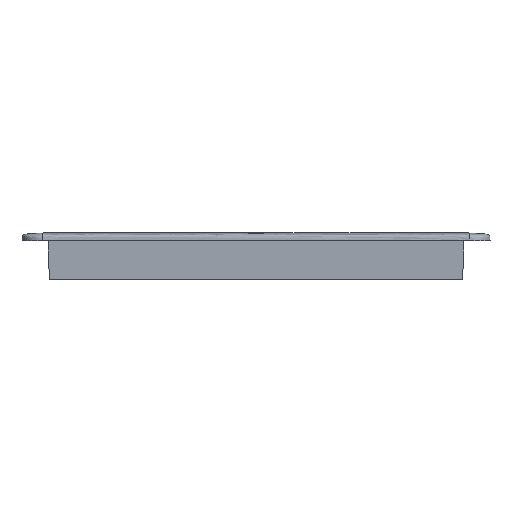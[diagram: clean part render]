
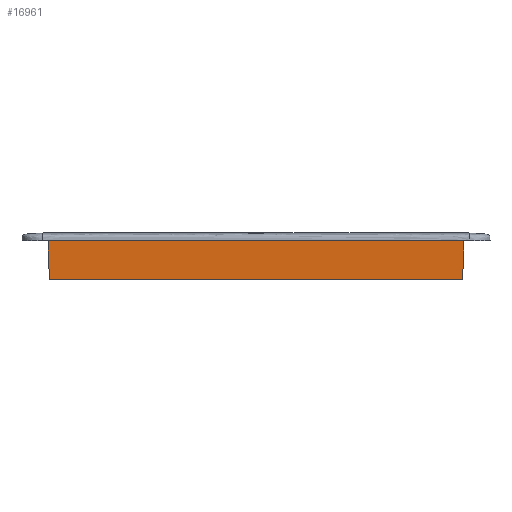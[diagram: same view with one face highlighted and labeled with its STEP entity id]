
A CAD part, front view. The second image highlights one B-rep face of the part: STEP entity #16961.
In plain terms, the highlighted planar face has unit normal (0, -0.999, -0.035).
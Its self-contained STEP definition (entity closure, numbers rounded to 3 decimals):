
#1172 = DIRECTION ( 'NONE',  ( 0., 0.035, -0.999 ) ) ;
#2906 = CARTESIAN_POINT ( 'NONE',  ( -144.421, -144.421, -0.001 ) ) ;
#3498 = EDGE_CURVE ( 'NONE', #21122, #11596, #11582, .T. ) ;
#4594 = LINE ( 'NONE', #24442, #30627 ) ;
#5108 = PLANE ( 'NONE',  #15021 ) ;
#5199 = VECTOR ( 'NONE', #29678, 1000. ) ;
#5937 = LINE ( 'NONE', #15845, #29996 ) ;
#5986 = ORIENTED_EDGE ( 'NONE', *, *, #27983, .F. ) ;
#6216 = DIRECTION ( 'NONE',  ( 0., -0.999, -0.035 ) ) ;
#7348 = DIRECTION ( 'NONE',  ( -1., 0., 0. ) ) ;
#7423 = ORIENTED_EDGE ( 'NONE', *, *, #3498, .F. ) ;
#7469 = EDGE_LOOP ( 'NONE', ( #7423, #26706, #18082, #5986 ) ) ;
#11582 = LINE ( 'NONE', #16627, #5199 ) ;
#11596 = VERTEX_POINT ( 'NONE', #23858 ) ;
#12016 = EDGE_CURVE ( 'NONE', #20030, #24028, #5937, .T. ) ;
#14535 = VECTOR ( 'NONE', #22643, 1000. ) ;
#15021 = AXIS2_PLACEMENT_3D ( 'NONE', #23624, #6216, #1172 ) ;
#15147 = CARTESIAN_POINT ( 'NONE',  ( -143.486, -144.421, -0.001 ) ) ;
#15175 = FACE_OUTER_BOUND ( 'NONE', #7469, .T. ) ;
#15845 = CARTESIAN_POINT ( 'NONE',  ( -143.486, -143.486, -26.777 ) ) ;
#16627 = CARTESIAN_POINT ( 'NONE',  ( 143.486, -143.486, -26.777 ) ) ;
#16961 = ADVANCED_FACE ( 'NONE', ( #15175 ), #5108, .T. ) ;
#18000 = EDGE_CURVE ( 'NONE', #21122, #20030, #25558, .T. ) ;
#18082 = ORIENTED_EDGE ( 'NONE', *, *, #12016, .T. ) ;
#18406 = CARTESIAN_POINT ( 'NONE',  ( 144.421, -144.421, -0.001 ) ) ;
#19078 = DIRECTION ( 'NONE',  ( 0.035, 0.035, -0.999 ) ) ;
#20030 = VERTEX_POINT ( 'NONE', #2906 ) ;
#21122 = VERTEX_POINT ( 'NONE', #18406 ) ;
#22643 = DIRECTION ( 'NONE',  ( -1., 0., 0. ) ) ;
#23624 = CARTESIAN_POINT ( 'NONE',  ( -143.486, -143.486, -26.777 ) ) ;
#23858 = CARTESIAN_POINT ( 'NONE',  ( 143.486, -143.486, -26.777 ) ) ;
#24028 = VERTEX_POINT ( 'NONE', #29682 ) ;
#24442 = CARTESIAN_POINT ( 'NONE',  ( -143.486, -143.486, -26.777 ) ) ;
#25558 = LINE ( 'NONE', #15147, #14535 ) ;
#26706 = ORIENTED_EDGE ( 'NONE', *, *, #18000, .T. ) ;
#27983 = EDGE_CURVE ( 'NONE', #11596, #24028, #4594, .T. ) ;
#29678 = DIRECTION ( 'NONE',  ( -0.035, 0.035, -0.999 ) ) ;
#29682 = CARTESIAN_POINT ( 'NONE',  ( -143.486, -143.486, -26.777 ) ) ;
#29996 = VECTOR ( 'NONE', #19078, 1000. ) ;
#30627 = VECTOR ( 'NONE', #7348, 1000. ) ;
